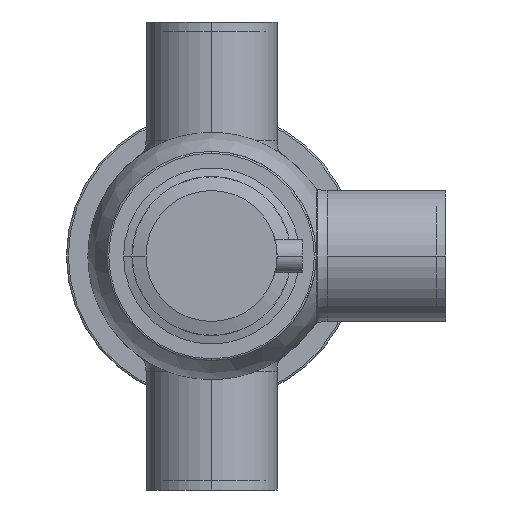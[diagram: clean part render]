
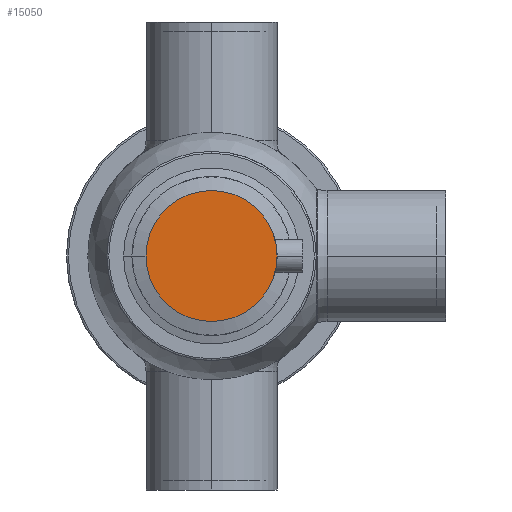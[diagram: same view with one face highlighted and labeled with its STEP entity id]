
A CAD part, front view. The second image highlights one B-rep face of the part: STEP entity #15050.
In plain terms, the highlighted planar face has unit normal (0, -1, 0).
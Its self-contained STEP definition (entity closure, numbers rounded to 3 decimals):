
#9550=CARTESIAN_POINT('',(35.,-92.85,0.));
#9560=VERTEX_POINT('',#9550);
#14810=CARTESIAN_POINT('',(-35.,-92.85,0.));
#14820=VERTEX_POINT('',#14810);
#14850=CARTESIAN_POINT('',(0.,-92.85,0.));
#14860=DIRECTION('',(0.,-1.,0.));
#14870=DIRECTION('',(-1.,0.,0.));
#14880=AXIS2_PLACEMENT_3D('',#14850,#14860,#14870);
#14890=CIRCLE('',#14880,35.);
#14900=EDGE_CURVE('',#14820,#9560,#14890,.T.);
#14950=CARTESIAN_POINT('',(0.,-92.85,0.));
#14960=DIRECTION('',(0.,-1.,0.));
#14970=DIRECTION('',(-1.,0.,0.));
#14980=AXIS2_PLACEMENT_3D('',#14950,#14960,#14970);
#14990=PLANE('',#14980);
#15000=EDGE_CURVE('',#9560,#14820,#14890,.T.);
#15010=ORIENTED_EDGE('',*,*,#15000,.T.);
#15020=ORIENTED_EDGE('',*,*,#14900,.T.);
#15030=EDGE_LOOP('',(#15020,#15010));
#15040=FACE_OUTER_BOUND('',#15030,.T.);
#15050=ADVANCED_FACE('',(#15040),#14990,.T.);
